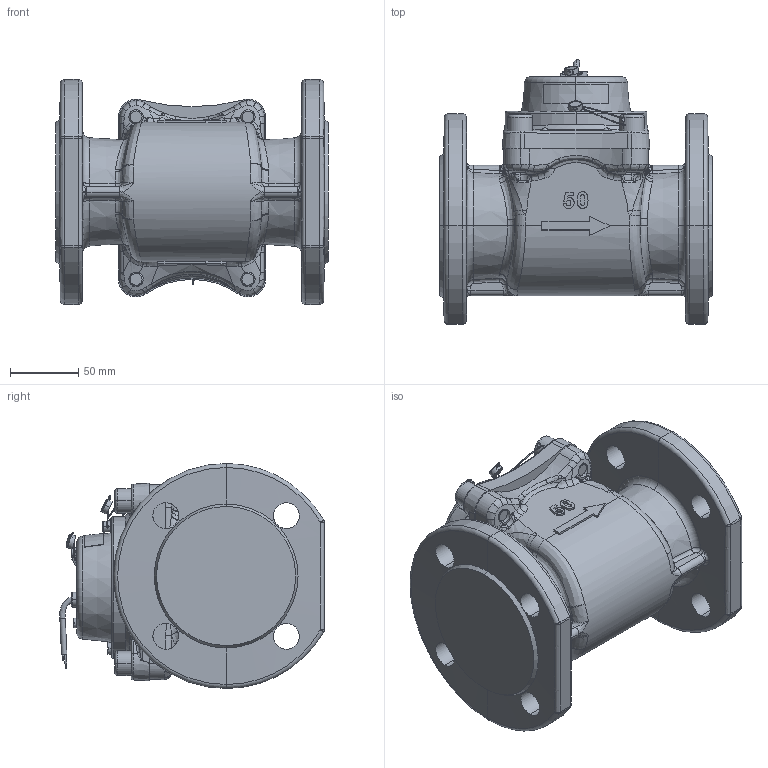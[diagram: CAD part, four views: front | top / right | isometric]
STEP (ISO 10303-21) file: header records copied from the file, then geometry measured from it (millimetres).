
FILE_DESCRIPTION (( 'STEP AP214' ), '1' );
FILE_NAME ('MWN130-50-NC.STEP', '2025-08-01T08:30:35', ( '' ), ( '' ), 'SwSTEP 2.0', 'SolidWorks 2019', '' );
FILE_SCHEMA (( 'AUTOMOTIVE_DESIGN' ));
Length unit declared in the file: millimetre
Products named in the file (1): MWN130-50-NC
Bounding box: 200 x 194.02 x 165 mm (x, y, z)
Volume: 2387932.2 mm3; surface area: 247521.6 mm2
Topology: 23 solids, 32 shells, 1600 faces, 4057 edges, 2500 vertices
Faces by surface type: plane 499, bspline 437, cylinder 370, cone 156, torus 118, sphere 20
Entity records: 89414 total; most frequent: CARTESIAN_POINT 36399, ORIENTED_EDGE 7988, DIRECTION 6397, EDGE_CURVE 3994, VERTEX_POINT 2500, AXIS2_PLACEMENT_3D 2444, EDGE_LOOP 1724, UNCERTAINTY_MEASURE_WITH_UNIT 1621
